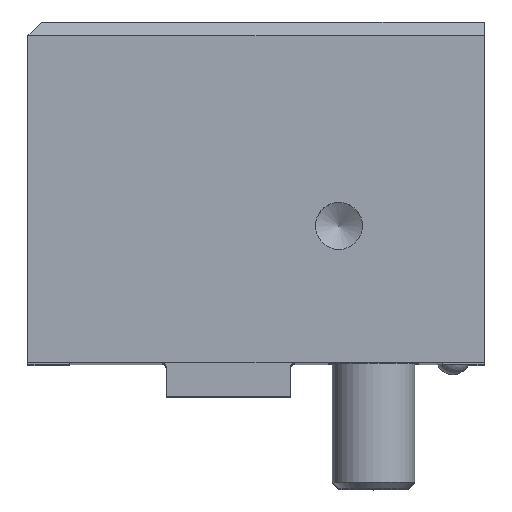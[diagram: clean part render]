
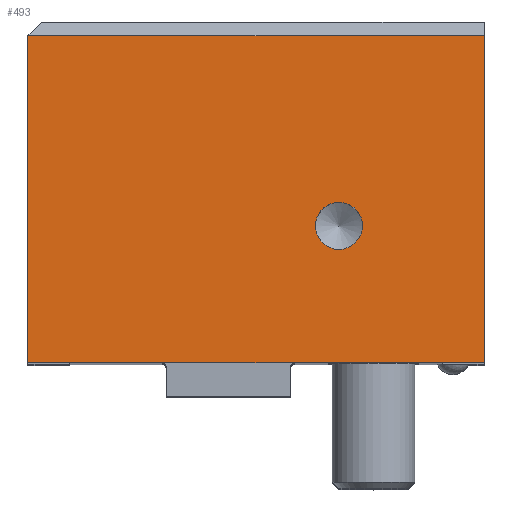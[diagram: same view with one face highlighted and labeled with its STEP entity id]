
A CAD part, top view. The second image highlights one B-rep face of the part: STEP entity #493.
In plain terms, the highlighted planar face has unit normal (0, 0, 1) as drawn and (1, 0, 0) by its records, which use the part's own axes.
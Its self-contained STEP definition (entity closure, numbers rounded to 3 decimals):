
#50 = DIRECTION ( 'NONE',  ( 0., 0., -1. ) ) ;
#53 = LINE ( 'NONE', #507, #2061 ) ;
#136 = VECTOR ( 'NONE', #1379, 1000. ) ;
#158 = EDGE_CURVE ( 'NONE', #1364, #850, #1833, .T. ) ;
#182 = AXIS2_PLACEMENT_3D ( 'NONE', #1645, #732, #1093 ) ;
#215 = CARTESIAN_POINT ( 'NONE',  ( 80., 19.8, -45. ) ) ;
#228 = EDGE_LOOP ( 'NONE', ( #728, #1340, #682, #1337 ) ) ;
#472 = CARTESIAN_POINT ( 'NONE',  ( 80., 47.3, 0. ) ) ;
#493 = ADVANCED_FACE ( 'NONE', ( #1720, #1068 ), #546, .T. ) ;
#507 = CARTESIAN_POINT ( 'NONE',  ( 80., 0., -66. ) ) ;
#546 = PLANE ( 'NONE',  #182 ) ;
#648 = EDGE_CURVE ( 'NONE', #855, #855, #2270, .T. ) ;
#682 = ORIENTED_EDGE ( 'NONE', *, *, #1836, .F. ) ;
#688 = EDGE_LOOP ( 'NONE', ( #2037 ) ) ;
#728 = ORIENTED_EDGE ( 'NONE', *, *, #829, .T. ) ;
#732 = DIRECTION ( 'NONE',  ( 1., 0., 0. ) ) ;
#744 = LINE ( 'NONE', #1205, #136 ) ;
#791 = VERTEX_POINT ( 'NONE', #2114 ) ;
#805 = EDGE_CURVE ( 'NONE', #791, #1420, #744, .T. ) ;
#808 = CARTESIAN_POINT ( 'NONE',  ( 80., 0., 0. ) ) ;
#829 = EDGE_CURVE ( 'NONE', #791, #1364, #53, .T. ) ;
#850 = VERTEX_POINT ( 'NONE', #472 ) ;
#855 = VERTEX_POINT ( 'NONE', #2145 ) ;
#977 = DIRECTION ( 'NONE',  ( 0., 0., 1. ) ) ;
#1068 = FACE_OUTER_BOUND ( 'NONE', #228, .T. ) ;
#1092 = DIRECTION ( 'NONE',  ( 0., 1., 0. ) ) ;
#1093 = DIRECTION ( 'NONE',  ( 0., 0., -1. ) ) ;
#1141 = CARTESIAN_POINT ( 'NONE',  ( 80., 47.3, -66. ) ) ;
#1176 = LINE ( 'NONE', #808, #2290 ) ;
#1187 = VECTOR ( 'NONE', #977, 1000. ) ;
#1205 = CARTESIAN_POINT ( 'NONE',  ( 80., 0., -66. ) ) ;
#1337 = ORIENTED_EDGE ( 'NONE', *, *, #805, .F. ) ;
#1340 = ORIENTED_EDGE ( 'NONE', *, *, #158, .T. ) ;
#1364 = VERTEX_POINT ( 'NONE', #2112 ) ;
#1379 = DIRECTION ( 'NONE',  ( 0., 0., 1. ) ) ;
#1420 = VERTEX_POINT ( 'NONE', #2329 ) ;
#1532 = DIRECTION ( 'NONE',  ( 1., 0., 0. ) ) ;
#1645 = CARTESIAN_POINT ( 'NONE',  ( 80., 0., -66. ) ) ;
#1720 = FACE_BOUND ( 'NONE', #688, .T. ) ;
#1833 = LINE ( 'NONE', #1141, #1187 ) ;
#1836 = EDGE_CURVE ( 'NONE', #1420, #850, #1176, .T. ) ;
#1896 = DIRECTION ( 'NONE',  ( 0., 1., 0. ) ) ;
#2037 = ORIENTED_EDGE ( 'NONE', *, *, #648, .F. ) ;
#2059 = AXIS2_PLACEMENT_3D ( 'NONE', #215, #1532, #50 ) ;
#2061 = VECTOR ( 'NONE', #1092, 1000. ) ;
#2112 = CARTESIAN_POINT ( 'NONE',  ( 80., 47.3, -66. ) ) ;
#2114 = CARTESIAN_POINT ( 'NONE',  ( 80., 0., -66. ) ) ;
#2145 = CARTESIAN_POINT ( 'NONE',  ( 80., 19.8, -48.4 ) ) ;
#2270 = CIRCLE ( 'NONE', #2059, 3.4 ) ;
#2290 = VECTOR ( 'NONE', #1896, 1000. ) ;
#2329 = CARTESIAN_POINT ( 'NONE',  ( 80., 0., 0. ) ) ;
